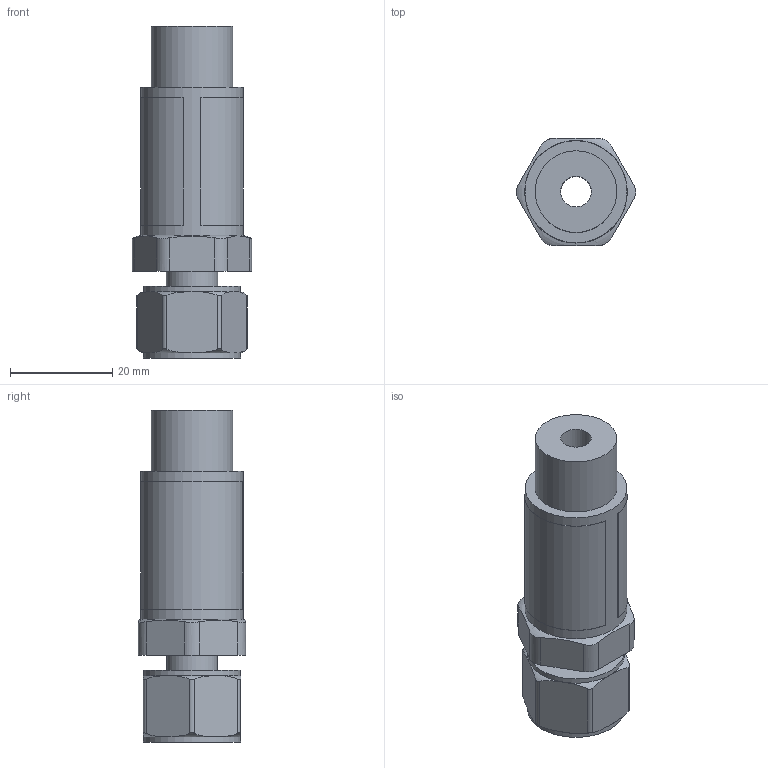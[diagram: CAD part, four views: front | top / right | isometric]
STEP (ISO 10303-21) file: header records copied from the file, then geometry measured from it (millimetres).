
FILE_DESCRIPTION(('STEP AP214'), '1');
FILE_NAME('Êèñëîðîäíûé îáðàòíûé êëàïàí M16x1.5 LT-HQ-05', '', ('UNSPECIFIED'), ('UNSPECIFIED'), 'ASCON STEP Converter 1.6', 'ASCON Math Kernel', '');
FILE_SCHEMA(('AUTOMOTIVE_DESIGN { 1 0 10303 214 3 1 1}'));
Length unit declared in the file: millimetre
Bounding box: 23.32 x 21 x 65 mm (x, y, z)
Volume: 15333.5 mm3; surface area: 6599.9 mm2
Topology: 1 solids, 1 shells, 55 faces, 134 edges, 85 vertices
Faces by surface type: plane 22, cylinder 20, torus 13
Full cylindrical faces by diameter (mm): 6 x1, 10 x1, 14.376 x1, 16 x1, 19 x2, 20 x1
Entity records: 3602 total; most frequent: CARTESIAN_POINT 1921, ORIENTED_EDGE 250, DIRECTION 226, EDGE_CURVE 125, AXIS2_PLACEMENT_3D 94, VERTEX_POINT 85, EDGE_LOOP 70, FACE_BOUND 57
